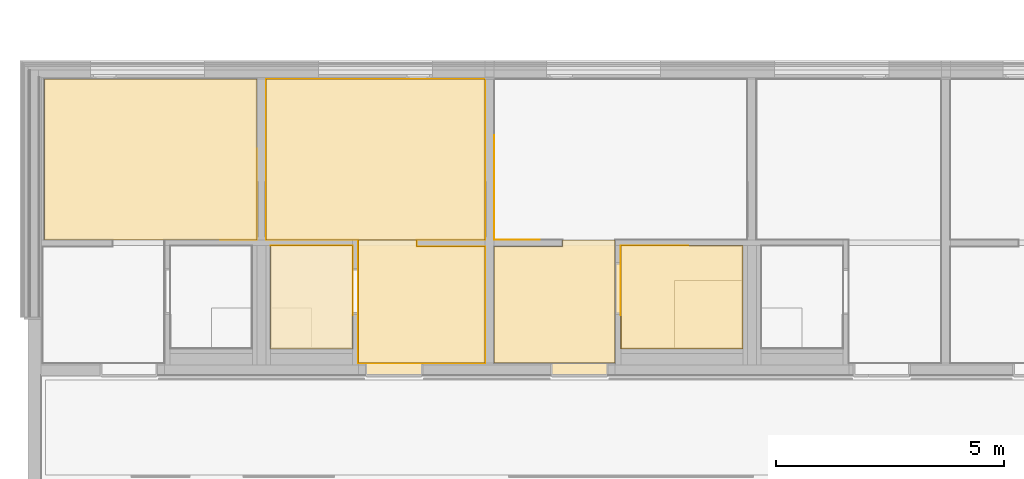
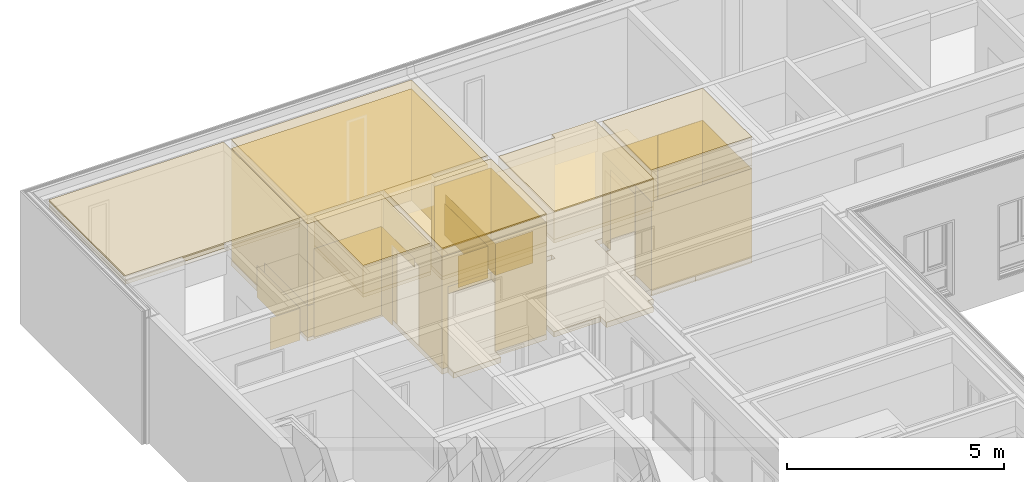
# One storey, part 176 of 222: 36 coverings.
"""IFC4 building model written with IfcOpenShell, lengths in metres."""

from ifc_helpers import new_model, entity, si_unit, converted_unit, derived_unit, frame, frame_2d, origin, place, context, subcontext, project, spatial, polyline, rectangle, outline, extrude, material, layer, layer_set, layer_usage, element, save


model = new_model("IFC4")

# Units and contexts
model_context = context("Model", 3, precision=1e-05, world=origin())
body_context = subcontext(model_context, "Body", "Model", "MODEL_VIEW")
ifc_project = project(units=[si_unit("LENGTHUNIT", "METRE"), si_unit("AREAUNIT", "SQUARE_METRE"), si_unit("VOLUMEUNIT", "CUBIC_METRE"), si_unit("MASSUNIT", "GRAM", prefix="KILO"), converted_unit("PLANEANGLEUNIT", "DEGREE", entity("IfcPlaneAngleMeasure", 0.0174532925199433), si_unit("PLANEANGLEUNIT", "RADIAN"), dimensions=[0, 0, 0, 0, 0, 0, 0]), derived_unit("THERMALTRANSMITTANCEUNIT", [(si_unit("POWERUNIT", "WATT"), 1), (si_unit("THERMODYNAMICTEMPERATUREUNIT", "KELVIN"), -1), (si_unit("LENGTHUNIT", "METRE"), -2)]), derived_unit("VOLUMETRICFLOWRATEUNIT", [(si_unit("LENGTHUNIT", "METRE"), 3), (converted_unit("TIMEUNIT", "hour", entity("IfcTimeMeasure", 3600.0), si_unit("TIMEUNIT", "SECOND"), dimensions=[0, 0, 1, 0, 0, 0, 0]), -1), (si_unit("LENGTHUNIT", "METRE"), -1)])], contexts=[model_context])

# Site, building, storey, space
site_placement = place(None, origin())
site = spatial("IfcSite", under=ifc_project, at=site_placement, Name="Psychiatrie Neubau Wunstorf", CompositionType="ELEMENT")
building_placement = place(site_placement, origin())
building = spatial("IfcBuilding", under=site, at=building_placement, Name="Neubau H2 Stationsgebäude", CompositionType="ELEMENT")
storey_placement = place(building_placement, frame((0.0, 0.0, 3.6)))
storey = spatial("IfcBuildingStorey", under=building, at=storey_placement, Name="H2 Ebene +1", CompositionType="ELEMENT", Elevation=3.6)
space_1_placement = place(storey_placement, frame((0.208999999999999, 24.3895, 0.0)))
space_1 = spatial("IfcSpace", under=storey, at=space_1_placement, Name="WUN-H2-E01-041", CompositionType="ELEMENT")

# Coverings
ifc_material_1 = material(Name="84")
ifc_layer_1 = layer(ifc_material_1, 0.001)
ifc_layer_set_1 = layer_set([ifc_layer_1])
ifc_layer_usage_1 = layer_usage(ifc_layer_set_1, "AXIS3", "POSITIVE", 0.0)
covering_1_placement = place(space_1_placement, frame((3.89100000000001, 2.7, 0.1)))
element("IfcCovering", 1, at=covering_1_placement, inside=space_1, material=ifc_layer_usage_1, Name="Acrovyn", PredefinedType="CLADDING", context=body_context, shape_type="SweptSolid", body=[
    extrude(rectangle(XDim=0.8, YDim=0.9, at=frame_2d((0.4, -0.45), x_axis=(1.0, 0.0))), frame((0.0, 0.0, 0.0), z_axis=(0.0, 1.0, 0.0), x_axis=(1.0, 0.0, 0.0)), (0.0, 0.0, 1.0), 0.001),
    extrude(rectangle(XDim=1.99650366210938, YDim=0.9, at=frame_2d((0.998251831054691, -0.45), x_axis=(1.0, 0.0))), frame((0.800000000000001, 0.0, 0.0), z_axis=(-1.0, -1.32107678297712e-14, 0.0), x_axis=(-1.32107678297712e-14, 1.0, 0.0)), (0.0, 0.0, 1.0), 0.001),
])
ifc_material_2 = material()
ifc_layer_2 = layer(ifc_material_2, 0.036)
ifc_layer_set_2 = layer_set([ifc_layer_2])
ifc_layer_usage_2 = layer_usage(ifc_layer_set_2, "AXIS3", "POSITIVE", 0.0)
covering_2_placement = place(space_1_placement, frame((0.0349999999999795, 2.7, 3.55)))
element("IfcCovering", 2, at=covering_2_placement, inside=space_1, material=ifc_layer_usage_2, Name="Gipsfaserplatten 2-lagig (BSK)", PredefinedType="CEILING", context=body_context, shape_type="SweptSolid", body=[
    extrude(rectangle(XDim=3.52100366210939, YDim=4.656, at=frame_2d((2.32799999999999, -1.7605018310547), x_axis=(-7.74916576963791e-15, -1.0))), frame((0.0, 0.0, 0.0), z_axis=(0.0, 0.0, -1.0), x_axis=(1.0, 0.0, 0.0)), (0.0, 0.0, 1.0), 0.036),
])
ifc_material_3 = material(Name="Installationshöhe")
ifc_layer_3 = layer(ifc_material_3, 0.114)
ifc_layer_set_3 = layer_set([ifc_layer_3])
ifc_layer_usage_3 = layer_usage(ifc_layer_set_3, "AXIS3", "POSITIVE", 0.0)
covering_3_placement = place(space_1_placement, frame((0.0349999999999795, 2.7, 3.514)))
element("IfcCovering", 3, at=covering_3_placement, inside=space_1, material=ifc_layer_usage_3, Name="Gipsfaserplatten 2-lagig (BSK)", PredefinedType="CEILING", context=body_context, shape_type="SweptSolid", body=[
    extrude(rectangle(XDim=3.52100366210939, YDim=4.656, at=frame_2d((2.32799999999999, -1.7605018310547), x_axis=(-7.74916576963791e-15, -1.0))), frame((0.0, 0.0, 0.0), z_axis=(0.0, 0.0, -1.0), x_axis=(1.0, 0.0, 0.0)), (0.0, 0.0, 1.0), 0.114),
])
ifc_material_4 = material(Name="A1")
ifc_layer_4 = layer(ifc_material_4, 0.1)
ifc_layer_set_4 = layer_set([ifc_layer_4])
ifc_layer_usage_4 = layer_usage(ifc_layer_set_4, "AXIS3", "POSITIVE", 0.0)
covering_4_placement = place(space_1_placement, frame((0.0349999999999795, 2.7, 3.4)))
element("IfcCovering", 4, at=covering_4_placement, inside=space_1, material=ifc_layer_usage_4, Name="Gipsfaserplatten 2-lagig (BSK)", PredefinedType="CEILING", context=body_context, shape_type="SweptSolid", body=[
    extrude(rectangle(XDim=3.52100366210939, YDim=4.656, at=frame_2d((2.32799999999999, -1.7605018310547), x_axis=(-7.74916576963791e-15, -1.0))), frame((0.0, 0.0, 0.0), z_axis=(0.0, 0.0, -1.0), x_axis=(1.0, 0.0, 0.0)), (0.0, 0.0, 1.0), 0.1),
])
ifc_material_5 = material(Name="D1")
ifc_layer_5 = layer(ifc_material_5, 0.001)
ifc_layer_set_5 = layer_set([ifc_layer_5])
ifc_layer_usage_5 = layer_usage(ifc_layer_set_5, "AXIS3", "POSITIVE", 0.0)
covering_5_placement = place(space_1_placement, frame((0.0349999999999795, 2.7, 3.3)))
element("IfcCovering", 5, at=covering_5_placement, inside=space_1, material=ifc_layer_usage_5, Name="Gipsfaserplatten 2-lagig (BSK)", PredefinedType="CEILING", context=body_context, shape_type="SweptSolid", body=[
    extrude(rectangle(XDim=3.52100366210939, YDim=4.656, at=frame_2d((2.32799999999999, -1.7605018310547), x_axis=(-7.74916576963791e-15, -1.0))), frame((0.0, 0.0, 0.0), z_axis=(0.0, 0.0, -1.0), x_axis=(1.0, 0.0, 0.0)), (0.0, 0.0, 1.0), 0.001),
])

# Space
space_2_placement = place(storey_placement, frame((5.09999999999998, 24.3895, 0.0)))
space_2 = spatial("IfcSpace", under=storey, at=space_2_placement, Name="WUN-H2-E01-042", CompositionType="ELEMENT")

# Coverings
ifc_material_6 = material(Name="84")
ifc_layer_6 = layer(ifc_material_6, 0.001)
ifc_layer_set_6 = layer_set([ifc_layer_6])
ifc_layer_usage_6 = layer_usage(ifc_layer_set_6, "AXIS3", "POSITIVE", 0.0)
covering_6_placement = place(space_2_placement, frame((0.0, 2.69999999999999, 0.1)))
element("IfcCovering", 6, at=covering_6_placement, inside=space_2, material=ifc_layer_usage_6, Name="Acrovyn", PredefinedType="CLADDING", context=body_context, shape_type="SweptSolid", body=[
    extrude(rectangle(XDim=0.9, YDim=0.8, at=frame_2d((-0.4, -0.45), x_axis=(0.0, -1.0))), frame((0.8, 0.0, 0.0), z_axis=(0.0, 1.0, 0.0), x_axis=(1.0, 0.0, 0.0)), (0.0, 0.0, 1.0), 0.001),
    extrude(rectangle(XDim=0.9, YDim=1.99650366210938, at=frame_2d((-0.998251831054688, -0.45), x_axis=(0.0, -1.0))), frame((0.0, 0.0, 0.0), z_axis=(1.0, 1.36663115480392e-14, 0.0), x_axis=(1.36663115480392e-14, -1.0, 0.0)), (0.0, 0.0, 1.0), 0.001),
])
ifc_material_7 = material(Name="84")
ifc_layer_7 = layer(ifc_material_7, 0.001)
ifc_layer_set_7 = layer_set([ifc_layer_7])
ifc_layer_usage_7 = layer_usage(ifc_layer_set_7, "AXIS3", "POSITIVE", 0.0)
covering_7_placement = place(space_2_placement, frame((4.00000000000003, 2.7, 0.1)))
element("IfcCovering", 7, at=covering_7_placement, inside=space_2, material=ifc_layer_usage_7, Name="Acrovyn", PredefinedType="CLADDING", context=body_context, shape_type="SweptSolid", body=[
    extrude(rectangle(XDim=0.8, YDim=0.9, at=frame_2d((0.4, -0.45), x_axis=(1.0, 0.0))), frame((0.0, 0.0, 0.0), z_axis=(0.0, 1.0, 0.0), x_axis=(1.0, 0.0, 0.0)), (0.0, 0.0, 1.0), 0.001),
    extrude(rectangle(XDim=1.99650366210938, YDim=0.9, at=frame_2d((0.998251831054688, -0.45), x_axis=(1.0, 0.0))), frame((0.8, 0.0, 0.0), z_axis=(-1.0, -1.27552241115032e-14, 0.0), x_axis=(-1.27552241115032e-14, 1.0, 0.0)), (0.0, 0.0, 1.0), 0.001),
])
ifc_material_8 = material()
ifc_layer_8 = layer(ifc_material_8, 0.036)
ifc_layer_set_8 = layer_set([ifc_layer_8])
ifc_layer_usage_8 = layer_usage(ifc_layer_set_8, "AXIS3", "POSITIVE", 0.0)
covering_8_placement = place(space_2_placement, frame((2.025, 0.0, 3.55)))
element("IfcCovering", 8, at=covering_8_placement, inside=space_2, material=ifc_layer_usage_8, Name="Gipsfaserplatten 2-lagig (BSK)", PredefinedType="CEILING", context=body_context, shape_type="SweptSolid", body=[
    extrude(outline(polyline([(0.0, 2.69999999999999), (0.0, 0.0), (1.27500000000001, 0.0), (1.27500000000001, 0.15), (2.77500000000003, 0.15), (2.775, 2.69999999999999), (0.0, 2.69999999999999)])), frame((0.0, 2.69999999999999, 0.0), z_axis=(0.0, 0.0, -1.0), x_axis=(1.0, 0.0, 0.0)), (0.0, 0.0, 1.0), 0.036),
])
ifc_material_9 = material(Name="Installationshöhe")
ifc_layer_9 = layer(ifc_material_9, 0.764)
ifc_layer_set_9 = layer_set([ifc_layer_9])
ifc_layer_usage_9 = layer_usage(ifc_layer_set_9, "AXIS3", "POSITIVE", 0.0)
covering_9_placement = place(space_2_placement, frame((2.025, 0.0, 3.514)))
element("IfcCovering", 9, at=covering_9_placement, inside=space_2, material=ifc_layer_usage_9, Name="Gipsfaserplatten 2-lagig (BSK)", PredefinedType="CEILING", context=body_context, shape_type="SweptSolid", body=[
    extrude(outline(polyline([(0.0, 2.69999999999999), (0.0, 0.0), (1.27500000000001, 0.0), (1.27500000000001, 0.15), (2.77500000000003, 0.15), (2.775, 2.69999999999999), (0.0, 2.69999999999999)])), frame((0.0, 2.69999999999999, 0.0), z_axis=(0.0, 0.0, -1.0), x_axis=(1.0, 0.0, 0.0)), (0.0, 0.0, 1.0), 0.764),
])
ifc_material_10 = material(Name="A1")
ifc_layer_10 = layer(ifc_material_10, 0.1)
ifc_layer_set_10 = layer_set([ifc_layer_10])
ifc_layer_usage_10 = layer_usage(ifc_layer_set_10, "AXIS3", "POSITIVE", 0.0)
covering_10_placement = place(space_2_placement, frame((2.025, 0.0, 2.75)))
element("IfcCovering", 10, at=covering_10_placement, inside=space_2, material=ifc_layer_usage_10, Name="Gipsfaserplatten 2-lagig (BSK)", PredefinedType="CEILING", context=body_context, shape_type="SweptSolid", body=[
    extrude(outline(polyline([(0.0, 2.69999999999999), (0.0, 0.0), (1.27500000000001, 0.0), (1.27500000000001, 0.15), (2.77500000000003, 0.15), (2.775, 2.69999999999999), (0.0, 2.69999999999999)])), frame((0.0, 2.69999999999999, 0.0), z_axis=(0.0, 0.0, -1.0), x_axis=(1.0, 0.0, 0.0)), (0.0, 0.0, 1.0), 0.1),
])
ifc_material_11 = material(Name="D1")
ifc_layer_11 = layer(ifc_material_11, 0.001)
ifc_layer_set_11 = layer_set([ifc_layer_11])
ifc_layer_usage_11 = layer_usage(ifc_layer_set_11, "AXIS3", "POSITIVE", 0.0)
covering_11_placement = place(space_2_placement, frame((2.025, 0.0, 2.65)))
element("IfcCovering", 11, at=covering_11_placement, inside=space_2, material=ifc_layer_usage_11, Name="Gipsfaserplatten 2-lagig (BSK)", PredefinedType="CEILING", context=body_context, shape_type="SweptSolid", body=[
    extrude(outline(polyline([(0.0, 2.69999999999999), (0.0, 0.0), (1.27500000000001, 0.0), (1.27500000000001, 0.15), (2.77500000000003, 0.15), (2.775, 2.69999999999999), (0.0, 2.69999999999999)])), frame((0.0, 2.69999999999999, 0.0), z_axis=(0.0, 0.0, -1.0), x_axis=(1.0, 0.0, 0.0)), (0.0, 0.0, 1.0), 0.001),
])
ifc_material_12 = material(Name="Ku1")
ifc_layer_12 = layer(ifc_material_12, 0.15)
ifc_layer_set_12 = layer_set([ifc_layer_12])
ifc_layer_usage_12 = layer_usage(ifc_layer_set_12, "AXIS3", "POSITIVE", 0.0)
covering_12_placement = place(space_2_placement, frame((0.0, -0.272000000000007, 0.0)))
element("IfcCovering", 12, at=covering_12_placement, inside=space_2, material=ifc_layer_usage_12, Name="PVC Bahnenware Holzoptik", PredefinedType="FLOORING", context=body_context, shape_type="SweptSolid", body=[
    extrude(rectangle(XDim=0.271999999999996, YDim=1.26, at=frame_2d((0.629999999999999, -0.135999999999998), x_axis=(0.0, -1.0))), frame((2.17500000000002, 0.272, 0.0), z_axis=(0.0, 0.0, 1.0), x_axis=(1.0, 0.0, 0.0)), (0.0, 0.0, 1.0), 0.15),
    extrude(outline(polyline([(4.8, 0.0), (4.80000000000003, 2.54999999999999), (3.30000000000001, 2.54999999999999), (3.30000000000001, 2.7), (4.80000000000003, 2.7), (4.8, 6.22100366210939), (0.0, 6.22100366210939), (0.0, 2.69999999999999), (2.02500000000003, 2.69999999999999), (2.025, 0.0), (4.8, 0.0)])), frame((0.0, 0.272000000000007, 0.0), z_axis=(0.0, 0.0, 1.0), x_axis=(1.0, 0.0, 0.0)), (0.0, 0.0, 1.0), 0.15),
])
ifc_material_13 = material()
ifc_layer_13 = layer(ifc_material_13, 0.036)
ifc_layer_set_13 = layer_set([ifc_layer_13])
ifc_layer_usage_13 = layer_usage(ifc_layer_set_13, "AXIS3", "POSITIVE", 0.0)
covering_13_placement = place(space_2_placement, frame((0.0, 2.69999999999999, 3.55)))
element("IfcCovering", 13, at=covering_13_placement, inside=space_2, material=ifc_layer_usage_13, Name="Gipsfaserplatten 2-lagig (BSK)", PredefinedType="CEILING", context=body_context, shape_type="SweptSolid", body=[
    extrude(rectangle(XDim=3.5210036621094, YDim=4.8, at=frame_2d((2.39999999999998, -1.7605018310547), x_axis=(-7.7491657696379e-15, -1.0))), frame((0.0, 0.0, 0.0), z_axis=(0.0, 0.0, -1.0), x_axis=(1.0, 0.0, 0.0)), (0.0, 0.0, 1.0), 0.036),
])
ifc_material_14 = material(Name="Installationshöhe")
ifc_layer_14 = layer(ifc_material_14, 0.114)
ifc_layer_set_14 = layer_set([ifc_layer_14])
ifc_layer_usage_14 = layer_usage(ifc_layer_set_14, "AXIS3", "POSITIVE", 0.0)
covering_14_placement = place(space_2_placement, frame((0.0, 2.69999999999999, 3.514)))
element("IfcCovering", 14, at=covering_14_placement, inside=space_2, material=ifc_layer_usage_14, Name="Gipsfaserplatten 2-lagig (BSK)", PredefinedType="CEILING", context=body_context, shape_type="SweptSolid", body=[
    extrude(rectangle(XDim=3.5210036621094, YDim=4.8, at=frame_2d((2.39999999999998, -1.7605018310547), x_axis=(-7.7491657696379e-15, -1.0))), frame((0.0, 0.0, 0.0), z_axis=(0.0, 0.0, -1.0), x_axis=(1.0, 0.0, 0.0)), (0.0, 0.0, 1.0), 0.114),
])
ifc_material_15 = material(Name="A1")
ifc_layer_15 = layer(ifc_material_15, 0.1)
ifc_layer_set_15 = layer_set([ifc_layer_15])
ifc_layer_usage_15 = layer_usage(ifc_layer_set_15, "AXIS3", "POSITIVE", 0.0)
covering_15_placement = place(space_2_placement, frame((0.0, 2.69999999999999, 3.4)))
element("IfcCovering", 15, at=covering_15_placement, inside=space_2, material=ifc_layer_usage_15, Name="Gipsfaserplatten 2-lagig (BSK)", PredefinedType="CEILING", context=body_context, shape_type="SweptSolid", body=[
    extrude(rectangle(XDim=3.5210036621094, YDim=4.8, at=frame_2d((2.39999999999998, -1.7605018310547), x_axis=(-7.7491657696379e-15, -1.0))), frame((0.0, 0.0, 0.0), z_axis=(0.0, 0.0, -1.0), x_axis=(1.0, 0.0, 0.0)), (0.0, 0.0, 1.0), 0.1),
])
ifc_material_16 = material(Name="D1")
ifc_layer_16 = layer(ifc_material_16, 0.001)
ifc_layer_set_16 = layer_set([ifc_layer_16])
ifc_layer_usage_16 = layer_usage(ifc_layer_set_16, "AXIS3", "POSITIVE", 0.0)
covering_16_placement = place(space_2_placement, frame((0.0, 2.69999999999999, 3.3)))
element("IfcCovering", 16, at=covering_16_placement, inside=space_2, material=ifc_layer_usage_16, Name="Gipsfaserplatten 2-lagig (BSK)", PredefinedType="CEILING", context=body_context, shape_type="SweptSolid", body=[
    extrude(rectangle(XDim=3.5210036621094, YDim=4.8, at=frame_2d((2.39999999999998, -1.7605018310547), x_axis=(-7.7491657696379e-15, -1.0))), frame((0.0, 0.0, 0.0), z_axis=(0.0, 0.0, -1.0), x_axis=(1.0, 0.0, 0.0)), (0.0, 0.0, 1.0), 0.001),
])
ifc_material_17 = material(Name="49")
ifc_layer_17 = layer(ifc_material_17, 0.001)
ifc_layer_set_17 = layer_set([ifc_layer_17])
ifc_layer_usage_17 = layer_usage(ifc_layer_set_17, "AXIS3", "POSITIVE", 0.0)
covering_17_placement = place(space_2_placement, frame((0.0, 0.0, 0.15)))
element("IfcCovering", 17, at=covering_17_placement, inside=space_2, material=ifc_layer_usage_17, PredefinedType="CLADDING", context=body_context, shape_type="SweptSolid", body=[
    extrude(outline(polyline([(0.0, 3.15), (0.625, 3.15), (0.625, 0.89), (1.635, 0.89), (1.635, 3.15), (2.69999999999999, 3.15), (2.69999999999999, 0.0), (0.0, 0.0), (0.0, 3.15)])), frame((2.02500000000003, 2.69999999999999, 3.15), z_axis=(1.0, -1.07552455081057e-14, -5.76303152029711e-16), x_axis=(-1.07552455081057e-14, -1.0, 0.0)), (0.0, 0.0, 1.0), 0.001),
    extrude(outline(polyline([(0.0, 3.15), (0.150000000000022, 3.15), (0.150000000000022, 0.89), (1.41000000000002, 0.89), (1.41000000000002, 3.15), (2.775, 3.15), (2.775, 0.0), (0.0, 0.0), (0.0, 3.15)])), frame((2.025, 0.0, 3.15), z_axis=(0.0, 1.0, 4.63732161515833e-16), x_axis=(1.0, 0.0, 0.0)), (0.0, 0.0, 1.0), 0.001),
    extrude(rectangle(XDim=2.54999999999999, YDim=3.15, at=frame_2d((1.275, -1.575), x_axis=(1.0, 0.0))), frame((4.8, 0.0, 0.0), z_axis=(-1.0, 9.98660849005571e-15, 0.0), x_axis=(9.98660849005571e-15, 1.0, 0.0)), (0.0, 0.0, 1.0), 0.001),
    extrude(rectangle(XDim=1.50000000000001, YDim=3.15, at=frame_2d((0.750000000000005, -1.575), x_axis=(1.0, 0.0))), frame((4.80000000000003, 2.54999999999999, 0.0), z_axis=(0.0, -1.0, 0.0), x_axis=(-1.0, 0.0, 0.0)), (0.0, 0.0, 1.0), 0.001),
    extrude(rectangle(XDim=0.150000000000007, YDim=3.15, at=frame_2d((0.0750000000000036, -1.575), x_axis=(1.0, 0.0))), frame((3.30000000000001, 2.54999999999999, 0.0), z_axis=(-1.0, 0.0, 0.0), x_axis=(0.0, 1.0, 0.0)), (0.0, 0.0, 1.0), 0.001),
    extrude(outline(polyline([(0.0, 3.15), (0.700000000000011, 3.15), (0.700000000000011, 2.3), (1.50000000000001, 2.3), (1.50000000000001, 0.0), (0.0, 0.0), (0.0, 3.15)])), frame((3.30000000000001, 2.7, 3.15), z_axis=(-1.02708894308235e-15, 1.0, 3.57248328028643e-16), x_axis=(1.0, 1.02708894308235e-15, 0.0)), (0.0, 0.0, 1.0), 0.001),
    extrude(outline(polyline([(1.99650366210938, 3.15), (3.52100366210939, 3.15), (3.52100366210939, 0.0), (0.0, 0.0), (0.0, 2.3), (1.99650366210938, 2.3), (1.99650366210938, 3.15)])), frame((4.80000000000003, 2.7, 3.15), z_axis=(-1.0, -8.86629636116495e-15, 7.78364454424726e-16), x_axis=(-8.86629636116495e-15, 1.0, 0.0)), (0.0, 0.0, 1.0), 0.001),
    extrude(rectangle(XDim=4.8, YDim=3.15, at=frame_2d((2.4, -1.575), x_axis=(1.0, 0.0))), frame((4.8, 6.22100366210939, 0.0), z_axis=(0.0, -1.0, 0.0), x_axis=(-1.0, 0.0, 0.0)), (0.0, 0.0, 1.0), 0.001),
    extrude(outline(polyline([(0.0, 3.15), (1.52450000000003, 3.15), (1.52450000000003, 2.3), (3.5210036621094, 2.3), (3.5210036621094, 0.0), (0.0, 0.0), (0.0, 3.15)])), frame((0.0, 6.22100366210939, 3.15), z_axis=(1.0, 8.60060974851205e-15, -9.61433958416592e-16), x_axis=(8.60060974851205e-15, -1.0, 0.0)), (0.0, 0.0, 1.0), 0.001),
    extrude(outline(polyline([(0.800000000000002, 3.15), (2.02500000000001, 3.15), (2.02500000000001, 0.0), (0.0, 0.0), (0.0, 2.3), (0.800000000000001, 2.3), (0.800000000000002, 3.15)])), frame((0.0, 2.69999999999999, 3.15), z_axis=(0.0, 1.0, 0.0), x_axis=(1.0, 0.0, 0.0)), (0.0, 0.0, 1.0), 0.001),
])

# Space
space_3_placement = place(storey_placement, frame((10.1, 24.3895, 0.0)))
space_3 = spatial("IfcSpace", under=storey, at=space_3_placement, Name="WUN-H2-E01-043", CompositionType="ELEMENT")

# Coverings
ifc_material_18 = material(Name="84")
ifc_layer_18 = layer(ifc_material_18, 0.001)
ifc_layer_set_18 = layer_set([ifc_layer_18])
ifc_layer_usage_18 = layer_usage(ifc_layer_set_18, "AXIS3", "POSITIVE", 0.0)
covering_18_placement = place(space_3_placement, frame((0.0, 2.69999999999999, 0.1)))
element("IfcCovering", 18, at=covering_18_placement, inside=space_3, material=ifc_layer_usage_18, Name="Acrovyn", PredefinedType="CLADDING", context=body_context, shape_type="SweptSolid", body=[
    extrude(rectangle(XDim=0.9, YDim=1.0, at=frame_2d((-0.5, -0.45), x_axis=(0.0, -1.0))), frame((1.0, 0.0, 0.0), z_axis=(0.0, 1.0, 0.0), x_axis=(1.0, 0.0, 0.0)), (0.0, 0.0, 1.0), 0.001),
    extrude(rectangle(XDim=0.9, YDim=2.29650366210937, at=frame_2d((-1.14825183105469, -0.45), x_axis=(0.0, -1.0))), frame((0.0, 0.0, 0.0), z_axis=(1.0, 1.18810352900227e-14, 0.0), x_axis=(1.18810352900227e-14, -1.0, 0.0)), (0.0, 0.0, 1.0), 0.001),
])
ifc_material_19 = material()
ifc_layer_19 = layer(ifc_material_19, 0.036)
ifc_layer_set_19 = layer_set([ifc_layer_19])
ifc_layer_usage_19 = layer_usage(ifc_layer_set_19, "AXIS3", "POSITIVE", 0.0)
covering_19_placement = place(space_3_placement, frame((0.0, 0.0, 3.55)))
element("IfcCovering", 19, at=covering_19_placement, inside=space_3, material=ifc_layer_usage_19, Name="Gipsfaserplatten 2-lagig (BSK)", PredefinedType="CEILING", context=body_context, shape_type="SweptSolid", body=[
    extrude(outline(polyline([(0.0, 0.150000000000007), (1.50000000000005, 0.150000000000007), (1.50000000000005, 0.0), (2.65000000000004, 0.0), (2.65000000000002, 2.69999999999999), (0.0, 2.69999999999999), (0.0, 0.150000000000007)])), frame((0.0, 2.69999999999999, 0.0), z_axis=(0.0, 0.0, -1.0), x_axis=(1.0, 0.0, 0.0)), (0.0, 0.0, 1.0), 0.036),
])
ifc_material_20 = material(Name="Installationshöhe")
ifc_layer_20 = layer(ifc_material_20, 0.764)
ifc_layer_set_20 = layer_set([ifc_layer_20])
ifc_layer_usage_20 = layer_usage(ifc_layer_set_20, "AXIS3", "POSITIVE", 0.0)
covering_20_placement = place(space_3_placement, frame((0.0, 0.0, 3.514)))
element("IfcCovering", 20, at=covering_20_placement, inside=space_3, material=ifc_layer_usage_20, Name="Gipsfaserplatten 2-lagig (BSK)", PredefinedType="CEILING", context=body_context, shape_type="SweptSolid", body=[
    extrude(outline(polyline([(0.0, 0.150000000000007), (1.50000000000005, 0.150000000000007), (1.50000000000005, 0.0), (2.65000000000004, 0.0), (2.65000000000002, 2.69999999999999), (0.0, 2.69999999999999), (0.0, 0.150000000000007)])), frame((0.0, 2.69999999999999, 0.0), z_axis=(0.0, 0.0, -1.0), x_axis=(1.0, 0.0, 0.0)), (0.0, 0.0, 1.0), 0.764),
])
ifc_material_21 = material(Name="A1")
ifc_layer_21 = layer(ifc_material_21, 0.1)
ifc_layer_set_21 = layer_set([ifc_layer_21])
ifc_layer_usage_21 = layer_usage(ifc_layer_set_21, "AXIS3", "POSITIVE", 0.0)
covering_21_placement = place(space_3_placement, frame((0.0, 0.0, 2.75)))
element("IfcCovering", 21, at=covering_21_placement, inside=space_3, material=ifc_layer_usage_21, Name="Gipsfaserplatten 2-lagig (BSK)", PredefinedType="CEILING", context=body_context, shape_type="SweptSolid", body=[
    extrude(outline(polyline([(0.0, 0.150000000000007), (1.50000000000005, 0.150000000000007), (1.50000000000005, 0.0), (2.65000000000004, 0.0), (2.65000000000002, 2.69999999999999), (0.0, 2.69999999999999), (0.0, 0.150000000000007)])), frame((0.0, 2.69999999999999, 0.0), z_axis=(0.0, 0.0, -1.0), x_axis=(1.0, 0.0, 0.0)), (0.0, 0.0, 1.0), 0.1),
])
ifc_material_22 = material(Name="D1")
ifc_layer_22 = layer(ifc_material_22, 0.001)
ifc_layer_set_22 = layer_set([ifc_layer_22])
ifc_layer_usage_22 = layer_usage(ifc_layer_set_22, "AXIS3", "POSITIVE", 0.0)
covering_22_placement = place(space_3_placement, frame((0.0, 0.0, 2.65)))
element("IfcCovering", 22, at=covering_22_placement, inside=space_3, material=ifc_layer_usage_22, Name="Gipsfaserplatten 2-lagig (BSK)", PredefinedType="CEILING", context=body_context, shape_type="SweptSolid", body=[
    extrude(outline(polyline([(0.0, 0.150000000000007), (1.50000000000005, 0.150000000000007), (1.50000000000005, 0.0), (2.65000000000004, 0.0), (2.65000000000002, 2.69999999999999), (0.0, 2.69999999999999), (0.0, 0.150000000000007)])), frame((0.0, 2.69999999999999, 0.0), z_axis=(0.0, 0.0, -1.0), x_axis=(1.0, 0.0, 0.0)), (0.0, 0.0, 1.0), 0.001),
])
ifc_material_23 = material(Name="Ku1")
ifc_layer_23 = layer(ifc_material_23, 0.15)
ifc_layer_set_23 = layer_set([ifc_layer_23])
ifc_layer_usage_23 = layer_usage(ifc_layer_set_23, "AXIS3", "POSITIVE", 0.0)
covering_23_placement = place(space_3_placement, frame((0.0, -0.272000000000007, 0.0)))
element("IfcCovering", 23, at=covering_23_placement, inside=space_3, material=ifc_layer_usage_23, Name="PVC Bahnenware Holzoptik", PredefinedType="FLOORING", context=body_context, shape_type="SweptSolid", body=[
    extrude(rectangle(XDim=0.271999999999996, YDim=1.26, at=frame_2d((0.63, -0.135999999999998), x_axis=(0.0, -1.0))), frame((1.24000000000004, 0.272, 0.0), z_axis=(0.0, 0.0, 1.0), x_axis=(1.0, 0.0, 0.0)), (0.0, 0.0, 1.0), 0.15),
    extrude(outline(polyline([(0.0, 2.54999999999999), (0.0, 0.0), (2.65000000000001, 0.0), (2.65000000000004, 2.69999999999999), (5.55000000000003, 2.69999999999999), (5.55000000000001, 6.22100366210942), (0.0, 6.22100366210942), (0.0, 2.69999999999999), (1.50000000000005, 2.69999999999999), (1.50000000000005, 2.54999999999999), (0.0, 2.54999999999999)])), frame((0.0, 0.272000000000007, 0.0), z_axis=(0.0, 0.0, 1.0), x_axis=(1.0, 0.0, 0.0)), (0.0, 0.0, 1.0), 0.15),
])

# Space
space_4_placement = place(storey_placement, frame((12.875, 24.6995, 0.0)))
space_4 = spatial("IfcSpace", under=storey, at=space_4_placement, Name="WUN-H2-E01-043a", CompositionType="ELEMENT")

# Coverings
ifc_material_24 = material(Name="Fl2")
ifc_layer_24 = layer(ifc_material_24, 0.15)
ifc_layer_set_24 = layer_set([ifc_layer_24])
ifc_layer_usage_24 = layer_usage(ifc_layer_set_24, "AXIS3", "POSITIVE", 0.0)
covering_24_placement = place(space_4_placement, frame((1.175, 0.0, 0.0)))
element("IfcCovering", 24, at=covering_24_placement, inside=space_4, material=ifc_layer_usage_24, Name="Fliesen Mosaik", PredefinedType="FLOORING", context=body_context, shape_type="SweptSolid", body=[
    extrude(rectangle(XDim=1.5, YDim=1.5, at=frame_2d((-0.75, 0.75), x_axis=(0.0, 1.0))), frame((1.5, 0.0, 0.0), z_axis=(0.0, 0.0, 1.0), x_axis=(1.0, 0.0, 0.0)), (0.0, 0.0, 1.0), 0.15),
])
ifc_material_25 = material(Name="Fl1")
ifc_layer_25 = layer(ifc_material_25, 0.15)
ifc_layer_set_25 = layer_set([ifc_layer_25])
ifc_layer_usage_25 = layer_usage(ifc_layer_set_25, "AXIS3", "POSITIVE", 0.0)
covering_25_placement = place(space_4_placement, frame((-0.125, 0.0, 0.0)))
element("IfcCovering", 25, at=covering_25_placement, inside=space_4, material=ifc_layer_usage_25, Name="Fliesen", PredefinedType="FLOORING", context=body_context, shape_type="SweptSolid", body=[
    extrude(rectangle(XDim=0.125, YDim=1.135, at=frame_2d((0.0625, 0.5675), x_axis=(1.0, 0.0))), frame((0.0, 0.755, 0.0), z_axis=(0.0, 0.0, 1.0), x_axis=(1.0, 0.0, 0.0)), (0.0, 0.0, 1.0), 0.15),
    extrude(outline(polyline([(1.175, 1.50000000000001), (2.67499999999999, 1.50000000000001), (2.67499999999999, 2.265), (0.0, 2.265), (0.0, 0.0), (1.175, 0.0), (1.175, 1.50000000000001)])), frame((0.125, 0.0, 0.0), z_axis=(0.0, 0.0, 1.0), x_axis=(1.0, 0.0, 0.0)), (0.0, 0.0, 1.0), 0.15),
])
ifc_material_26 = material()
ifc_layer_26 = layer(ifc_material_26, 0.036)
ifc_layer_set_26 = layer_set([ifc_layer_26])
ifc_layer_usage_26 = layer_usage(ifc_layer_set_26, "AXIS3", "POSITIVE", 0.0)
covering_26_placement = place(space_4_placement, frame((0.0, 0.0, 3.55)))
element("IfcCovering", 26, at=covering_26_placement, inside=space_4, material=ifc_layer_usage_26, Name="Gipsfaserplatten 2-lagig (BSK)", PredefinedType="CEILING", context=body_context, shape_type="SweptSolid", body=[
    extrude(rectangle(XDim=2.265, YDim=2.67499999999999, at=frame_2d((-1.33749999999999, 1.1325), x_axis=(0.0, 1.0))), frame((2.67499999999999, 2.265, 0.0), z_axis=(0.0, 0.0, -1.0), x_axis=(1.0, 0.0, 0.0)), (0.0, 0.0, 1.0), 0.036),
])
ifc_material_27 = material(Name="Installationshöhe")
ifc_layer_27 = layer(ifc_material_27, 0.764)
ifc_layer_set_27 = layer_set([ifc_layer_27])
ifc_layer_usage_27 = layer_usage(ifc_layer_set_27, "AXIS3", "POSITIVE", 0.0)
covering_27_placement = place(space_4_placement, frame((0.0, 0.0, 3.514)))
element("IfcCovering", 27, at=covering_27_placement, inside=space_4, material=ifc_layer_usage_27, Name="Gipsfaserplatten 2-lagig (BSK)", PredefinedType="CEILING", context=body_context, shape_type="SweptSolid", body=[
    extrude(rectangle(XDim=2.265, YDim=2.67499999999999, at=frame_2d((-1.33749999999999, 1.1325), x_axis=(0.0, 1.0))), frame((2.67499999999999, 2.265, 0.0), z_axis=(0.0, 0.0, -1.0), x_axis=(1.0, 0.0, 0.0)), (0.0, 0.0, 1.0), 0.764),
])
ifc_material_28 = material(Name="B")
ifc_layer_28 = layer(ifc_material_28, 0.1)
ifc_layer_set_28 = layer_set([ifc_layer_28])
ifc_layer_usage_28 = layer_usage(ifc_layer_set_28, "AXIS3", "POSITIVE", 0.0)
covering_28_placement = place(space_4_placement, frame((0.0, 0.0, 2.75)))
element("IfcCovering", 28, at=covering_28_placement, inside=space_4, material=ifc_layer_usage_28, Name="Gipskarton, imprägniert", PredefinedType="CEILING", context=body_context, shape_type="SweptSolid", body=[
    extrude(rectangle(XDim=2.265, YDim=2.67499999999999, at=frame_2d((-1.33749999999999, 1.1325), x_axis=(0.0, 1.0))), frame((2.67499999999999, 2.265, 0.0), z_axis=(0.0, 0.0, -1.0), x_axis=(1.0, 0.0, 0.0)), (0.0, 0.0, 1.0), 0.1),
])
ifc_material_29 = material(Name="D1")
ifc_layer_29 = layer(ifc_material_29, 0.001)
ifc_layer_set_29 = layer_set([ifc_layer_29])
ifc_layer_usage_29 = layer_usage(ifc_layer_set_29, "AXIS3", "POSITIVE", 0.0)
covering_29_placement = place(space_4_placement, frame((0.0, 0.0, 2.65)))
element("IfcCovering", 29, at=covering_29_placement, inside=space_4, material=ifc_layer_usage_29, Name="Gipsfaserplatten 2-lagig (BSK)", PredefinedType="CEILING", context=body_context, shape_type="SweptSolid", body=[
    extrude(rectangle(XDim=2.265, YDim=2.67499999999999, at=frame_2d((-1.33749999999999, 1.1325), x_axis=(0.0, 1.0))), frame((2.67499999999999, 2.265, 0.0), z_axis=(0.0, 0.0, -1.0), x_axis=(1.0, 0.0, 0.0)), (0.0, 0.0, 1.0), 0.001),
])
ifc_material_30 = material(Name="50")
ifc_layer_30 = layer(ifc_material_30, 0.001)
ifc_layer_set_30 = layer_set([ifc_layer_30])
ifc_layer_usage_30 = layer_usage(ifc_layer_set_30, "AXIS3", "POSITIVE", 0.0)
covering_30_placement = place(space_4_placement, frame((0.0, 0.739999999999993, 0.15)))
element("IfcCovering", 30, at=covering_30_placement, inside=space_4, material=ifc_layer_usage_30, PredefinedType="CLADDING", context=body_context, shape_type="SweptSolid", body=[
    extrude(outline(polyline([(0.0, 2.5), (0.375, 2.5), (0.375, 0.24), (1.51, 0.24), (1.51, 2.5), (1.52500000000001, 2.5), (1.52500000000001, 0.0), (0.0, 0.0), (0.0, 2.5)])), frame((0.0, 1.52500000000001, 2.5), z_axis=(1.0, 0.0, -4.10696938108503e-16), x_axis=(0.0, -1.0, 0.0)), (0.0, 0.0, 1.0), 0.001),
    extrude(rectangle(XDim=1.47499999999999, YDim=2.5, at=frame_2d((0.737499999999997, -1.25), x_axis=(1.0, 0.0))), frame((1.47499999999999, 1.52500000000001, 0.0), z_axis=(0.0, -1.0, 0.0), x_axis=(-1.0, 0.0, 0.0)), (0.0, 0.0, 1.0), 0.001),
])
ifc_material_31 = material(Name="68")
ifc_layer_31 = layer(ifc_material_31, 0.01)
ifc_layer_set_31 = layer_set([ifc_layer_31])
ifc_layer_usage_31 = layer_usage(ifc_layer_set_31, "AXIS3", "POSITIVE", 0.0)
covering_31_placement = place(space_4_placement, frame((0.0, 0.0, 0.15)))
element("IfcCovering", 31, at=covering_31_placement, inside=space_4, material=ifc_layer_usage_31, Name="a-sh Wandbelag", PredefinedType="CLADDING", context=body_context, shape_type="SweptSolid", body=[
    extrude(rectangle(XDim=0.739999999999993, YDim=2.5, at=frame_2d((0.369999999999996, -1.25), x_axis=(1.0, 0.0))), frame((0.0, 0.739999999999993, 0.0), z_axis=(1.0, 4.91618757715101e-15, 0.0), x_axis=(4.91618757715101e-15, -1.0, 0.0)), (0.0, 0.0, 1.0), 0.01),
    extrude(rectangle(XDim=2.26499999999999, YDim=2.5, at=frame_2d((1.1325, -1.25), x_axis=(1.0, 0.0))), frame((2.675, 0.0, 0.0), z_axis=(-1.0, -2.40925748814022e-15, 0.0), x_axis=(-2.40925748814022e-15, 1.0, 0.0)), (0.0, 0.0, 1.0), 0.01),
    extrude(rectangle(XDim=1.2, YDim=2.5, at=frame_2d((0.6, -1.25), x_axis=(1.0, 0.0))), frame((2.675, 2.265, 0.0), z_axis=(0.0, -1.0, 0.0), x_axis=(-1.0, 0.0, 0.0)), (0.0, 0.0, 1.0), 0.01),
    extrude(rectangle(XDim=2.675, YDim=2.5, at=frame_2d((1.3375, -1.25), x_axis=(1.0, 0.0))), frame((0.0, 0.0, 0.0), z_axis=(-2.71998415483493e-15, 1.0, 0.0), x_axis=(1.0, 2.71998415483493e-15, 0.0)), (0.0, 0.0, 1.0), 0.01),
])

# Space
space_5_placement = place(storey_placement, frame((5.2, 24.6995, 0.0)))
space_5 = spatial("IfcSpace", under=storey, at=space_5_placement, Name="WUN-H2-E01-042a", CompositionType="ELEMENT")

# Coverings
ifc_material_32 = material(Name="50")
ifc_layer_32 = layer(ifc_material_32, 0.001)
ifc_layer_set_32 = layer_set([ifc_layer_32])
ifc_layer_usage_32 = layer_usage(ifc_layer_set_32, "AXIS3", "POSITIVE", 0.0)
covering_32_placement = place(space_5_placement, frame((0.0, 0.739999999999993, 0.15)))
element("IfcCovering", 32, at=covering_32_placement, inside=space_5, material=ifc_layer_usage_32, PredefinedType="CLADDING", context=body_context, shape_type="SweptSolid", body=[
    extrude(outline(polyline([(0.0, 2.5), (0.0150000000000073, 2.5), (0.0150000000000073, 0.24), (1.02500000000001, 0.24), (1.02500000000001, 2.5), (1.52500000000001, 2.5), (1.52500000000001, 0.0), (0.0, 0.0), (0.0, 2.5)])), frame((1.8, 0.0, 2.5), z_axis=(-1.0, 1.98879941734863e-16, 9.62569624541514e-16), x_axis=(1.98879941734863e-16, 1.0, 0.0)), (0.0, 0.0, 1.0), 0.001),
    extrude(rectangle(XDim=1.8, YDim=2.5, at=frame_2d((0.9, -1.25), x_axis=(1.0, 0.0))), frame((1.8, 1.52500000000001, 0.0), z_axis=(0.0, -1.0, 0.0), x_axis=(-1.0, 0.0, 0.0)), (0.0, 0.0, 1.0), 0.001),
])
ifc_material_33 = material()
ifc_layer_33 = layer(ifc_material_33, 0.036)
ifc_layer_set_33 = layer_set([ifc_layer_33])
ifc_layer_usage_33 = layer_usage(ifc_layer_set_33, "AXIS3", "POSITIVE", 0.0)
covering_33_placement = place(space_5_placement, frame((0.0, 0.0, 3.55)))
element("IfcCovering", 33, at=covering_33_placement, inside=space_5, material=ifc_layer_usage_33, Name="Gipsfaserplatten 2-lagig (BSK)", PredefinedType="CEILING", context=body_context, shape_type="SweptSolid", body=[
    extrude(rectangle(XDim=1.8, YDim=2.265, at=frame_2d((0.9, 1.1325), x_axis=(1.0, 0.0))), frame((0.0, 2.265, 0.0), z_axis=(0.0, 0.0, -1.0), x_axis=(1.0, 0.0, 0.0)), (0.0, 0.0, 1.0), 0.036),
])
ifc_material_34 = material(Name="Installationshöhe")
ifc_layer_34 = layer(ifc_material_34, 0.764)
ifc_layer_set_34 = layer_set([ifc_layer_34])
ifc_layer_usage_34 = layer_usage(ifc_layer_set_34, "AXIS3", "POSITIVE", 0.0)
covering_34_placement = place(space_5_placement, frame((0.0, 0.0, 3.514)))
element("IfcCovering", 34, at=covering_34_placement, inside=space_5, material=ifc_layer_usage_34, Name="Gipsfaserplatten 2-lagig (BSK)", PredefinedType="CEILING", context=body_context, shape_type="SweptSolid", body=[
    extrude(rectangle(XDim=1.8, YDim=2.265, at=frame_2d((0.9, 1.1325), x_axis=(1.0, 0.0))), frame((0.0, 2.265, 0.0), z_axis=(0.0, 0.0, -1.0), x_axis=(1.0, 0.0, 0.0)), (0.0, 0.0, 1.0), 0.764),
])
ifc_material_35 = material(Name="B")
ifc_layer_35 = layer(ifc_material_35, 0.1)
ifc_layer_set_35 = layer_set([ifc_layer_35])
ifc_layer_usage_35 = layer_usage(ifc_layer_set_35, "AXIS3", "POSITIVE", 0.0)
covering_35_placement = place(space_5_placement, frame((0.0, 0.0, 2.75)))
element("IfcCovering", 35, at=covering_35_placement, inside=space_5, material=ifc_layer_usage_35, Name="Gipskarton, imprägniert", PredefinedType="CEILING", context=body_context, shape_type="SweptSolid", body=[
    extrude(rectangle(XDim=1.8, YDim=2.265, at=frame_2d((0.9, 1.1325), x_axis=(1.0, 0.0))), frame((0.0, 2.265, 0.0), z_axis=(0.0, 0.0, -1.0), x_axis=(1.0, 0.0, 0.0)), (0.0, 0.0, 1.0), 0.1),
])
ifc_material_36 = material(Name="D1")
ifc_layer_36 = layer(ifc_material_36, 0.001)
ifc_layer_set_36 = layer_set([ifc_layer_36])
ifc_layer_usage_36 = layer_usage(ifc_layer_set_36, "AXIS3", "POSITIVE", 0.0)
covering_36_placement = place(space_5_placement, frame((0.0, 0.0, 2.65)))
element("IfcCovering", 36, at=covering_36_placement, inside=space_5, material=ifc_layer_usage_36, Name="Gipsfaserplatten 2-lagig (BSK)", PredefinedType="CEILING", context=body_context, shape_type="SweptSolid", body=[
    extrude(rectangle(XDim=1.8, YDim=2.265, at=frame_2d((0.9, 1.1325), x_axis=(1.0, 0.0))), frame((0.0, 2.265, 0.0), z_axis=(0.0, 0.0, -1.0), x_axis=(1.0, 0.0, 0.0)), (0.0, 0.0, 1.0), 0.001),
])

save(model, "model.ifc")
